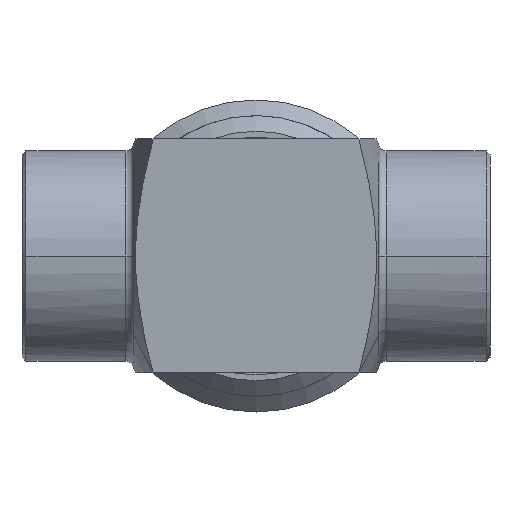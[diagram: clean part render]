
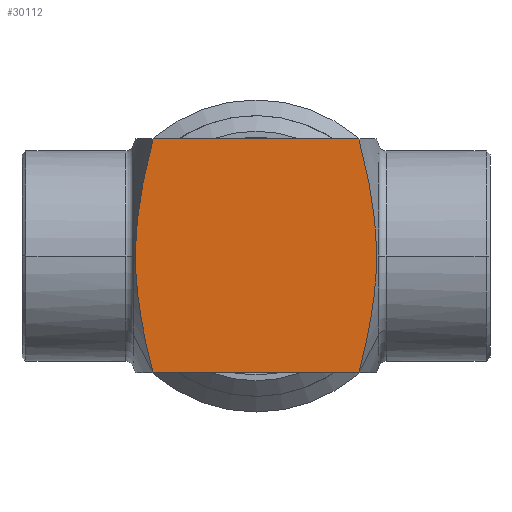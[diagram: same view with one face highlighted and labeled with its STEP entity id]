
A CAD part, front view. The second image highlights one B-rep face of the part: STEP entity #30112.
In plain terms, the highlighted planar face has unit normal (0, -1, 0).
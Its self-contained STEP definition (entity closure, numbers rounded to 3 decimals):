
#5916=DIRECTION('',(-1.,0.,0.));
#5917=VECTOR('',#5916,26.385);
#5918=CARTESIAN_POINT('',(13.193,-15.,15.));
#5919=LINE('',#5918,#5917);
#12123=CARTESIAN_POINT('',(-13.193,-15.,-15.));
#12142=CARTESIAN_POINT('',(13.193,-15.,-15.));
#12169=CARTESIAN_POINT('',(-13.193,-15.,15.));
#12170=CARTESIAN_POINT('',(-13.462,-15.,13.954));
#12171=CARTESIAN_POINT('',(-13.944,-15.,11.967));
#12172=CARTESIAN_POINT('',(-14.492,-15.,9.369));
#12173=CARTESIAN_POINT('',(-14.911,-15.,6.962));
#12174=CARTESIAN_POINT('',(-15.218,-15.,4.636));
#12175=CARTESIAN_POINT('',(-15.41,-15.,2.323));
#12176=CARTESIAN_POINT('',(-15.476,-15.,-0.003));
#12177=CARTESIAN_POINT('',(-15.41,-15.,-2.328));
#12178=CARTESIAN_POINT('',(-15.218,-15.,-4.641));
#12179=CARTESIAN_POINT('',(-14.911,-15.,-6.965));
#12180=CARTESIAN_POINT('',(-14.491,-15.,-9.37));
#12181=CARTESIAN_POINT('',(-13.945,-15.,-11.966));
#12182=CARTESIAN_POINT('',(-13.462,-15.,-13.953));
#12183=CARTESIAN_POINT('',(-13.193,-15.,-15.));
#12188=CARTESIAN_POINT('',(13.193,-15.,15.));
#12189=CARTESIAN_POINT('',(13.443,-15.,14.026));
#12190=CARTESIAN_POINT('',(13.895,-15.,12.174));
#12191=CARTESIAN_POINT('',(14.416,-15.,9.743));
#12192=CARTESIAN_POINT('',(14.824,-15.,7.496));
#12193=CARTESIAN_POINT('',(15.134,-15.,5.337));
#12194=CARTESIAN_POINT('',(15.348,-15.,3.206));
#12195=CARTESIAN_POINT('',(15.459,-15.,1.069));
#12196=CARTESIAN_POINT('',(15.459,-15.,-1.074));
#12197=CARTESIAN_POINT('',(15.348,-15.,-3.211));
#12198=CARTESIAN_POINT('',(15.134,-15.,-5.342));
#12199=CARTESIAN_POINT('',(14.824,-15.,-7.499));
#12200=CARTESIAN_POINT('',(14.416,-15.,-9.744));
#12201=CARTESIAN_POINT('',(13.895,-15.,-12.174));
#12202=CARTESIAN_POINT('',(13.443,-15.,-14.025));
#12203=CARTESIAN_POINT('',(13.193,-15.,-15.));
#12208=DIRECTION('',(-1.,0.,0.));
#12209=VECTOR('',#12208,26.385);
#12210=CARTESIAN_POINT('',(13.193,-15.,-15.));
#12211=LINE('',#12210,#12209);
#19229=VERTEX_POINT('',#12142);
#19231=VERTEX_POINT('',#12188);
#19233=VERTEX_POINT('',#12123);
#19235=VERTEX_POINT('',#12169);
#30101=CARTESIAN_POINT('',(16.,-15.,-15.));
#30102=DIRECTION('',(0.,-1.,0.));
#30103=DIRECTION('',(0.,0.,1.));
#30104=AXIS2_PLACEMENT_3D('',#30101,#30102,#30103);
#30105=PLANE('',#30104);
#30106=ORIENTED_EDGE('',*,*,#25295,.F.);
#30107=ORIENTED_EDGE('',*,*,#25312,.F.);
#30108=ORIENTED_EDGE('',*,*,#25656,.T.);
#30109=ORIENTED_EDGE('',*,*,#30094,.T.);
#30110=EDGE_LOOP('',(#30106,#30107,#30108,#30109));
#30111=FACE_OUTER_BOUND('',#30110,.F.);
#30112=ADVANCED_FACE('',(#30111),#30105,.T.);
#12184=B_SPLINE_CURVE_WITH_KNOTS('',3,(#12169,#12170,#12171,#12172,#12173,
#12174,#12175,#12176,#12177,#12178,#12179,#12180,#12181,#12182,#12183),
.UNSPECIFIED.,.F.,.F.,(4,1,1,1,1,1,1,1,1,1,1,1,4),(0.,0.083,
0.167,0.25,0.333,0.417,0.5,
0.583,0.667,0.75,0.833,0.917,
1.),.UNSPECIFIED.);
#12204=B_SPLINE_CURVE_WITH_KNOTS('',3,(#12188,#12189,#12190,#12191,#12192,
#12193,#12194,#12195,#12196,#12197,#12198,#12199,#12200,#12201,#12202,#12203),
.UNSPECIFIED.,.F.,.F.,(4,1,1,1,1,1,1,1,1,1,1,1,1,4),(0.,0.077,
0.154,0.231,0.308,0.385,
0.462,0.538,0.615,0.692,
0.769,0.846,0.923,1.),.UNSPECIFIED.);
#25295=EDGE_CURVE('',#19235,#19233,#12184,.T.);
#25312=EDGE_CURVE('',#19231,#19235,#5919,.T.);
#25656=EDGE_CURVE('',#19231,#19229,#12204,.T.);
#30094=EDGE_CURVE('',#19229,#19233,#12211,.T.);
